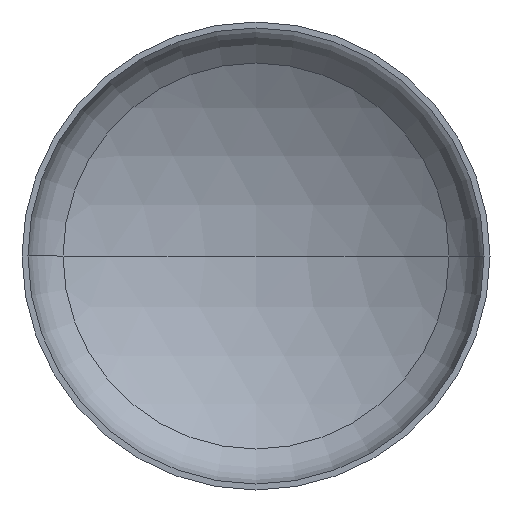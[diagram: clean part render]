
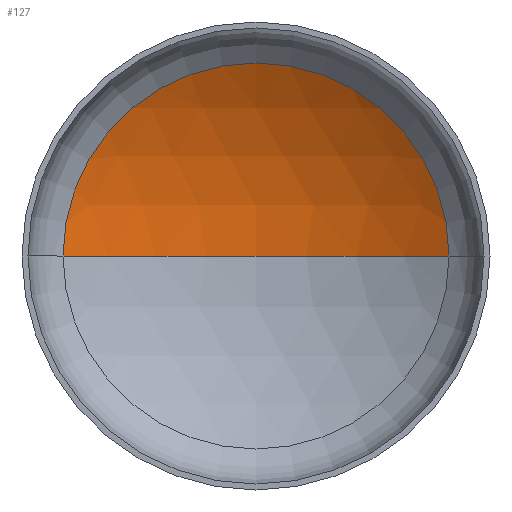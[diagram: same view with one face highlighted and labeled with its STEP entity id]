
A CAD part, front view. The second image highlights one B-rep face of the part: STEP entity #127.
In plain terms, the highlighted spherical face has radius 1760 mm.
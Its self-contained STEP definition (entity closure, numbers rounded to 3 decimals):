
#5 = AXIS2_PLACEMENT_3D ( 'NONE', #98, #289, #124 ) ;
#6 = CARTESIAN_POINT ( 'NONE',  ( -907.268, 376.344, 0. ) ) ;
#25 = AXIS2_PLACEMENT_3D ( 'NONE', #341, #277, #114 ) ;
#29 = CARTESIAN_POINT ( 'NONE',  ( 907.268, 376.344, 0. ) ) ;
#51 = AXIS2_PLACEMENT_3D ( 'NONE', #186, #267, #265 ) ;
#98 = CARTESIAN_POINT ( 'NONE',  ( 0., -1131.789, 0. ) ) ;
#114 = DIRECTION ( 'NONE',  ( 1., 0., 0. ) ) ;
#124 = DIRECTION ( 'NONE',  ( 1., 0., 0. ) ) ;
#127 = ADVANCED_FACE ( 'NONE', ( #400 ), #187, .F. ) ;
#149 = CIRCLE ( 'NONE', #25, 907.268 ) ;
#186 = CARTESIAN_POINT ( 'NONE',  ( 0., -1131.789, 0. ) ) ;
#187 = SPHERICAL_SURFACE ( 'NONE', #51, 1760. ) ;
#207 = CIRCLE ( 'NONE', #5, 1760. ) ;
#234 = DIRECTION ( 'NONE',  ( -1., 0., 0. ) ) ;
#236 = EDGE_LOOP ( 'NONE', ( #304, #254, #396 ) ) ;
#241 = VERTEX_POINT ( 'NONE', #6 ) ;
#254 = ORIENTED_EDGE ( 'NONE', *, *, #365, .T. ) ;
#265 = DIRECTION ( 'NONE',  ( -1., 0., 0. ) ) ;
#267 = DIRECTION ( 'NONE',  ( 0., 0., -1. ) ) ;
#273 = CIRCLE ( 'NONE', #350, 1760. ) ;
#277 = DIRECTION ( 'NONE',  ( 0., -1., 0. ) ) ;
#289 = DIRECTION ( 'NONE',  ( 0., 0., 1. ) ) ;
#304 = ORIENTED_EDGE ( 'NONE', *, *, #363, .F. ) ;
#309 = VERTEX_POINT ( 'NONE', #29 ) ;
#315 = CARTESIAN_POINT ( 'NONE',  ( 0., 628.211, 0. ) ) ;
#321 = EDGE_CURVE ( 'NONE', #309, #241, #149, .T. ) ;
#341 = CARTESIAN_POINT ( 'NONE',  ( 0., 376.344, 0. ) ) ;
#350 = AXIS2_PLACEMENT_3D ( 'NONE', #394, #395, #234 ) ;
#363 = EDGE_CURVE ( 'NONE', #380, #241, #207, .T. ) ;
#365 = EDGE_CURVE ( 'NONE', #380, #309, #273, .T. ) ;
#380 = VERTEX_POINT ( 'NONE', #315 ) ;
#394 = CARTESIAN_POINT ( 'NONE',  ( 0., -1131.789, 0. ) ) ;
#395 = DIRECTION ( 'NONE',  ( 0., 0., -1. ) ) ;
#396 = ORIENTED_EDGE ( 'NONE', *, *, #321, .T. ) ;
#400 = FACE_OUTER_BOUND ( 'NONE', #236, .T. ) ;
